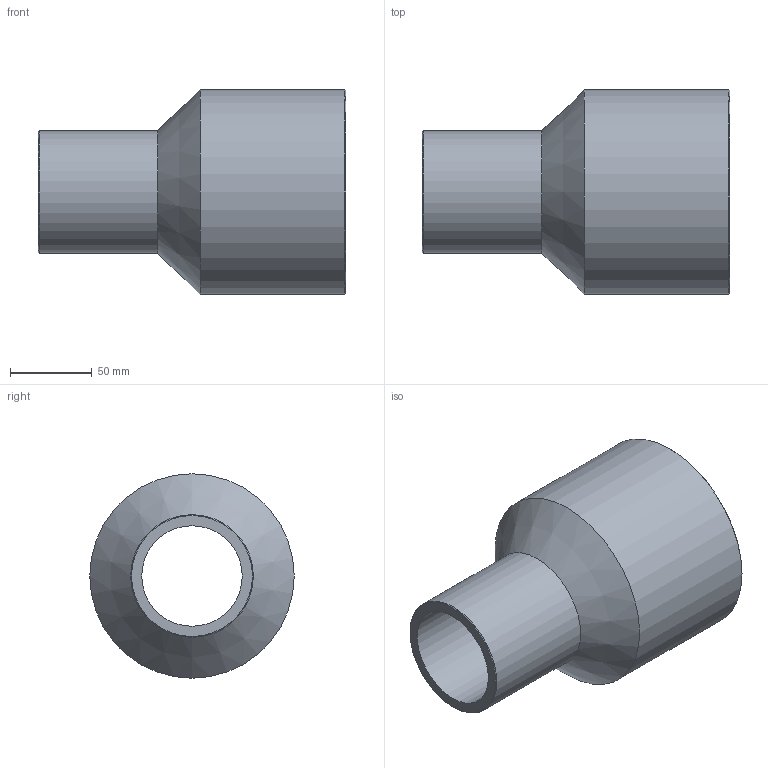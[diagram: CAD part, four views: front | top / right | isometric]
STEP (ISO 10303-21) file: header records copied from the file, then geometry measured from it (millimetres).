
FILE_DESCRIPTION(/* description */ ('Unknown'),/* implementation_level */ '2;1');
FILE_NAME(/* name */ 'RP125075C',/* time_stamp */ '2021-09-17T15:12:53+02:00',/* author */ ('Unknown'),/* organization */ ('Unknown'),/* preprocessor_version */ 'ST-DEVELOPER v16.7',/* originating_system */ 'Solid Edge',/* authorisation */ 'Unknown');
FILE_SCHEMA (('AUTOMOTIVE_DESIGN {1 0 10303 214 3 1 1}'));
Length unit declared in the file: millimetre
Products named in the file (1): RP125075C
Bounding box: 188 x 125 x 125 mm (x, y, z)
Volume: 561606.4 mm3; surface area: 119243.2 mm2
Topology: 1 solids, 1 shells, 10 faces, 19 edges, 11 vertices
Faces by surface type: cylinder 4, cone 4, plane 2
Full cylindrical faces by diameter (mm): 61.4 x1, 75 x1, 102.2 x1, 125 x1
Entity records: 238 total; most frequent: DIRECTION 42, CARTESIAN_POINT 31, AXIS2_PLACEMENT_3D 21, ORIENTED_EDGE 20, EDGE_LOOP 20, FACE_BOUND 20, EDGE_CURVE 10, VERTEX_POINT 10
